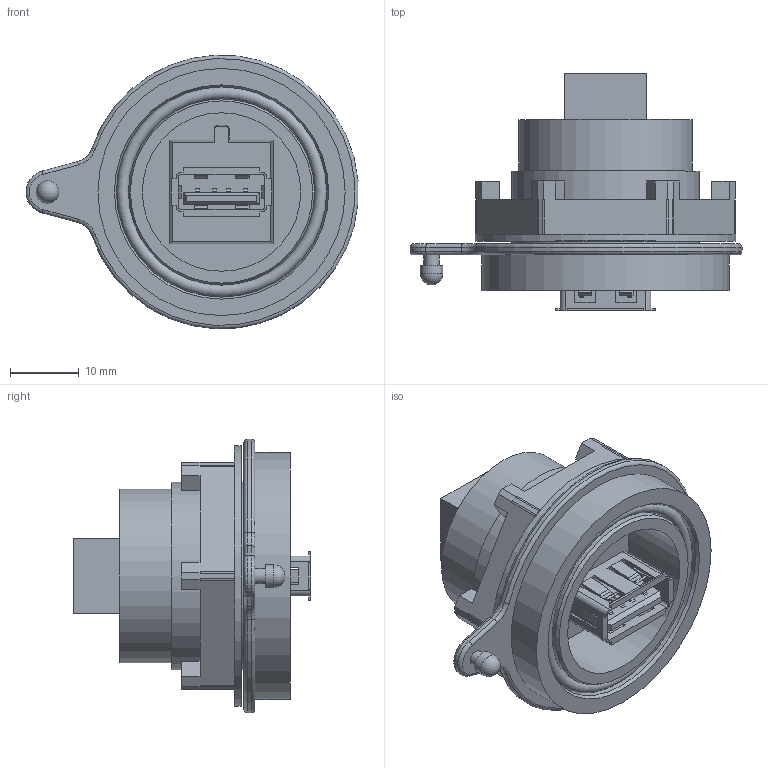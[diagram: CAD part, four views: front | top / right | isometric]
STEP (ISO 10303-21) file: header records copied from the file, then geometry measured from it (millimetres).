
FILE_DESCRIPTION (( 'STEP AP214' ), '1' );
FILE_NAME ('USB Adaptor, USB Type A Receptacle, USB Type B Receptacle - SCRU-01.STEP', '2017-10-05T01:46:29', ( 'WDTL' ), ( 'Wellington Drive Technology Ltd' ), 'SwSTEP 2.0', 'SolidWorks 2012', '' );
FILE_SCHEMA (( 'AUTOMOTIVE_DESIGN' ));
Length unit declared in the file: millimetre
Products named in the file (1): USB Adaptor, USB Type A Receptacle, USB Type B Receptacle - SCRU-01
Bounding box: 48.37 x 34.59 x 39.85 mm (x, y, z)
Volume: 14706.4 mm3; surface area: 11328.2 mm2
Topology: 1 solids, 3 shells, 381 faces, 1022 edges, 662 vertices
Faces by surface type: plane 276, cylinder 81, torus 13, cone 6, bspline 4, sphere 1
Full cylindrical faces by diameter (mm): 2.2 x1, 3.3 x1, 23.09 x2, 25.309 x1, 27.13 x2, 27.309 x2, 30.63 x2, 36 x1, 38 x1
Entity records: 13467 total; most frequent: CARTESIAN_POINT 2348, ORIENTED_EDGE 1988, DIRECTION 1920, EDGE_CURVE 994, LINE 792, VECTOR 792, VERTEX_POINT 656, AXIS2_PLACEMENT_3D 564
